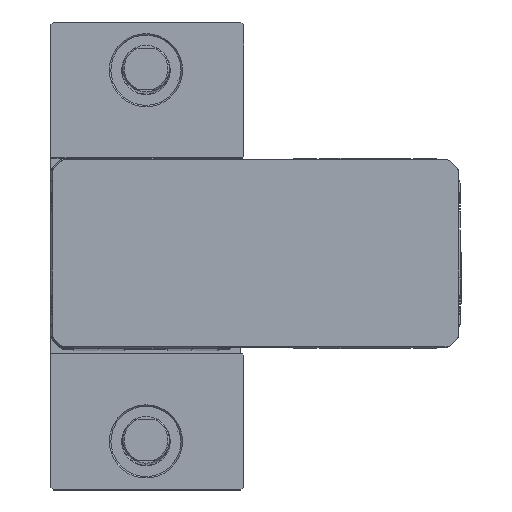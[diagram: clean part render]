
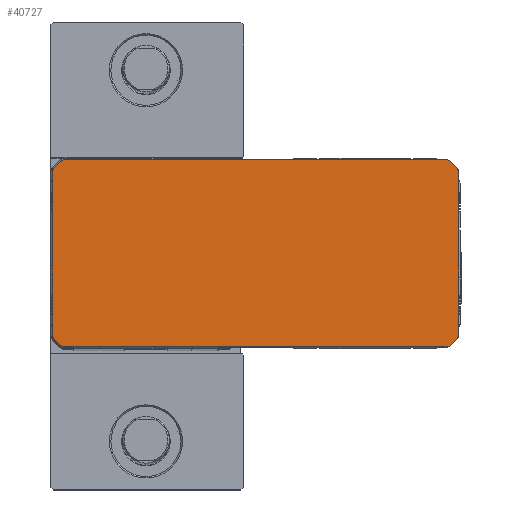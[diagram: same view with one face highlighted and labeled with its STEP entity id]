
A CAD part, top view. The second image highlights one B-rep face of the part: STEP entity #40727.
In plain terms, the highlighted planar face has unit normal (0, 0, 1).
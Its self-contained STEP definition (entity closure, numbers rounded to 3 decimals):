
#173 = DIRECTION ( 'NONE',  ( 0., 0., 1. ) ) ;
#1389 = VERTEX_POINT ( 'NONE', #41141 ) ;
#1442 = VERTEX_POINT ( 'NONE', #16970 ) ;
#1480 = AXIS2_PLACEMENT_3D ( 'NONE', #14711, #39157, #18220 ) ;
#1530 = CARTESIAN_POINT ( 'NONE',  ( -28., -30.5, 494. ) ) ;
#1694 = EDGE_CURVE ( 'NONE', #29848, #35018, #24774, .T. ) ;
#1878 = CARTESIAN_POINT ( 'NONE',  ( 106.561, 29.061, 494. ) ) ;
#2185 = DIRECTION ( 'NONE',  ( -0.707, 0.707, 0. ) ) ;
#3496 = DIRECTION ( 'NONE',  ( 0., 0., 1. ) ) ;
#3920 = CIRCLE ( 'NONE', #15931, 1.5 ) ;
#4418 = CARTESIAN_POINT ( 'NONE',  ( 103., 32., 494. ) ) ;
#4488 = LINE ( 'NONE', #10699, #40550 ) ;
#4684 = VERTEX_POINT ( 'NONE', #19243 ) ;
#4984 = CARTESIAN_POINT ( 'NONE',  ( 103., -32., 494. ) ) ;
#5087 = DIRECTION ( 'NONE',  ( 1., 0., 0. ) ) ;
#5245 = ORIENTED_EDGE ( 'NONE', *, *, #35434, .T. ) ;
#5634 = EDGE_CURVE ( 'NONE', #20023, #4684, #20060, .T. ) ;
#5825 = ORIENTED_EDGE ( 'NONE', *, *, #25659, .T. ) ;
#6308 = ORIENTED_EDGE ( 'NONE', *, *, #34750, .T. ) ;
#7182 = AXIS2_PLACEMENT_3D ( 'NONE', #1530, #25980, #5087 ) ;
#7264 = VERTEX_POINT ( 'NONE', #27009 ) ;
#7403 = VERTEX_POINT ( 'NONE', #39658 ) ;
#8210 = ORIENTED_EDGE ( 'NONE', *, *, #17579, .T. ) ;
#8279 = VECTOR ( 'NONE', #10390, 1000. ) ;
#8396 = CARTESIAN_POINT ( 'NONE',  ( -31.561, -29.061, 494. ) ) ;
#8438 = CARTESIAN_POINT ( 'NONE',  ( 103., -30.5, 494. ) ) ;
#8661 = VERTEX_POINT ( 'NONE', #33406 ) ;
#8936 = DIRECTION ( 'NONE',  ( -0.707, -0.707, 0. ) ) ;
#9127 = DIRECTION ( 'NONE',  ( 0., 1., 0. ) ) ;
#10007 = CARTESIAN_POINT ( 'NONE',  ( -30.5, -28., 494. ) ) ;
#10390 = DIRECTION ( 'NONE',  ( 0.707, 0.707, 0. ) ) ;
#10397 = EDGE_CURVE ( 'NONE', #7264, #15494, #17558, .T. ) ;
#10699 = CARTESIAN_POINT ( 'NONE',  ( -32., 28., 494. ) ) ;
#10789 = VECTOR ( 'NONE', #18686, 1000. ) ;
#11111 = PLANE ( 'NONE',  #37136 ) ;
#11929 = CARTESIAN_POINT ( 'NONE',  ( 105.5, -28., 494. ) ) ;
#11972 = DIRECTION ( 'NONE',  ( 1., 0., 0. ) ) ;
#13312 = VECTOR ( 'NONE', #8936, 1000. ) ;
#13554 = DIRECTION ( 'NONE',  ( 1., 0., 0. ) ) ;
#14099 = DIRECTION ( 'NONE',  ( 0., 0., 1. ) ) ;
#14129 = ORIENTED_EDGE ( 'NONE', *, *, #17745, .T. ) ;
#14167 = AXIS2_PLACEMENT_3D ( 'NONE', #8438, #32863, #11972 ) ;
#14711 = CARTESIAN_POINT ( 'NONE',  ( 103., 30.5, 494. ) ) ;
#15426 = DIRECTION ( 'NONE',  ( 1., 0., 0. ) ) ;
#15494 = VERTEX_POINT ( 'NONE', #22646 ) ;
#15931 = AXIS2_PLACEMENT_3D ( 'NONE', #24415, #3496, #27919 ) ;
#16688 = DIRECTION ( 'NONE',  ( 1., 0., 0. ) ) ;
#16970 = CARTESIAN_POINT ( 'NONE',  ( -32., 28., 494. ) ) ;
#17183 = CARTESIAN_POINT ( 'NONE',  ( 107., 28., 494. ) ) ;
#17342 = AXIS2_PLACEMENT_3D ( 'NONE', #21117, #173, #24643 ) ;
#17347 = VERTEX_POINT ( 'NONE', #26594 ) ;
#17558 = LINE ( 'NONE', #24268, #8279 ) ;
#17579 = EDGE_CURVE ( 'NONE', #1442, #19855, #4488, .T. ) ;
#17745 = EDGE_CURVE ( 'NONE', #15494, #1389, #42179, .T. ) ;
#18136 = CARTESIAN_POINT ( 'NONE',  ( -30.5, -28., 494. ) ) ;
#18220 = DIRECTION ( 'NONE',  ( 1., 0., 0. ) ) ;
#18686 = DIRECTION ( 'NONE',  ( -1., 0., 0. ) ) ;
#19046 = ORIENTED_EDGE ( 'NONE', *, *, #20348, .T. ) ;
#19243 = CARTESIAN_POINT ( 'NONE',  ( -28., 32., 494. ) ) ;
#19311 = CARTESIAN_POINT ( 'NONE',  ( -29.061, 31.561, 494. ) ) ;
#19824 = CARTESIAN_POINT ( 'NONE',  ( 104.061, 31.561, 494. ) ) ;
#19855 = VERTEX_POINT ( 'NONE', #31292 ) ;
#20023 = VERTEX_POINT ( 'NONE', #4418 ) ;
#20026 = CIRCLE ( 'NONE', #34653, 1.5 ) ;
#20060 = LINE ( 'NONE', #43135, #10789 ) ;
#20348 = EDGE_CURVE ( 'NONE', #19855, #29081, #20026, .T. ) ;
#20406 = ORIENTED_EDGE ( 'NONE', *, *, #29703, .T. ) ;
#21117 = CARTESIAN_POINT ( 'NONE',  ( -28., 30.5, 494. ) ) ;
#21239 = DIRECTION ( 'NONE',  ( 0., -1., 0. ) ) ;
#21490 = LINE ( 'NONE', #19311, #13312 ) ;
#21639 = DIRECTION ( 'NONE',  ( 1., 0., 0. ) ) ;
#22493 = LINE ( 'NONE', #1878, #29571 ) ;
#22567 = LINE ( 'NONE', #8396, #41168 ) ;
#22646 = CARTESIAN_POINT ( 'NONE',  ( 106.561, -29.061, 494. ) ) ;
#23007 = CARTESIAN_POINT ( 'NONE',  ( 107., -28., 494. ) ) ;
#23720 = CARTESIAN_POINT ( 'NONE',  ( -28., -32., 494. ) ) ;
#23808 = ORIENTED_EDGE ( 'NONE', *, *, #5634, .T. ) ;
#23946 = ORIENTED_EDGE ( 'NONE', *, *, #10397, .T. ) ;
#24268 = CARTESIAN_POINT ( 'NONE',  ( 104.061, -31.561, 494. ) ) ;
#24415 = CARTESIAN_POINT ( 'NONE',  ( -30.5, 28., 494. ) ) ;
#24643 = DIRECTION ( 'NONE',  ( 1., 0., 0. ) ) ;
#24774 = CIRCLE ( 'NONE', #7182, 1.5 ) ;
#24790 = EDGE_CURVE ( 'NONE', #1389, #31925, #26210, .T. ) ;
#25203 = LINE ( 'NONE', #23720, #33379 ) ;
#25659 = EDGE_CURVE ( 'NONE', #31925, #17347, #36528, .T. ) ;
#25980 = DIRECTION ( 'NONE',  ( 0., 0., 1. ) ) ;
#26104 = AXIS2_PLACEMENT_3D ( 'NONE', #11929, #36333, #15426 ) ;
#26210 = LINE ( 'NONE', #23007, #43713 ) ;
#26413 = ORIENTED_EDGE ( 'NONE', *, *, #36317, .T. ) ;
#26594 = CARTESIAN_POINT ( 'NONE',  ( 106.561, 29.061, 494. ) ) ;
#27009 = CARTESIAN_POINT ( 'NONE',  ( 104.061, -31.561, 494. ) ) ;
#27919 = DIRECTION ( 'NONE',  ( 1., 0., 0. ) ) ;
#28141 = ORIENTED_EDGE ( 'NONE', *, *, #30597, .T. ) ;
#29081 = VERTEX_POINT ( 'NONE', #43144 ) ;
#29571 = VECTOR ( 'NONE', #2185, 1000. ) ;
#29703 = EDGE_CURVE ( 'NONE', #29081, #29848, #22567, .T. ) ;
#29848 = VERTEX_POINT ( 'NONE', #43958 ) ;
#30042 = ORIENTED_EDGE ( 'NONE', *, *, #24790, .T. ) ;
#30597 = EDGE_CURVE ( 'NONE', #17347, #38700, #22493, .T. ) ;
#30678 = EDGE_CURVE ( 'NONE', #35018, #32246, #25203, .T. ) ;
#31292 = CARTESIAN_POINT ( 'NONE',  ( -32., -28., 494. ) ) ;
#31925 = VERTEX_POINT ( 'NONE', #17183 ) ;
#32246 = VERTEX_POINT ( 'NONE', #4984 ) ;
#32533 = CIRCLE ( 'NONE', #17342, 1.5 ) ;
#32823 = DIRECTION ( 'NONE',  ( 0.707, -0.707, 0. ) ) ;
#32863 = DIRECTION ( 'NONE',  ( 0., 0., 1. ) ) ;
#32991 = EDGE_CURVE ( 'NONE', #38700, #20023, #41448, .T. ) ;
#33379 = VECTOR ( 'NONE', #16688, 1000. ) ;
#33406 = CARTESIAN_POINT ( 'NONE',  ( -29.061, 31.561, 494. ) ) ;
#34428 = DIRECTION ( 'NONE',  ( 0., 0., 1. ) ) ;
#34567 = EDGE_CURVE ( 'NONE', #4684, #8661, #32533, .T. ) ;
#34653 = AXIS2_PLACEMENT_3D ( 'NONE', #10007, #34428, #13554 ) ;
#34750 = EDGE_CURVE ( 'NONE', #32246, #7264, #41797, .T. ) ;
#34999 = CARTESIAN_POINT ( 'NONE',  ( 105.5, 28., 494. ) ) ;
#35018 = VERTEX_POINT ( 'NONE', #44926 ) ;
#35434 = EDGE_CURVE ( 'NONE', #8661, #7403, #21490, .T. ) ;
#36317 = EDGE_CURVE ( 'NONE', #7403, #1442, #3920, .T. ) ;
#36333 = DIRECTION ( 'NONE',  ( 0., 0., 1. ) ) ;
#36528 = CIRCLE ( 'NONE', #37461, 1.5 ) ;
#37136 = AXIS2_PLACEMENT_3D ( 'NONE', #18136, #42582, #21639 ) ;
#37461 = AXIS2_PLACEMENT_3D ( 'NONE', #34999, #14099, #38518 ) ;
#38518 = DIRECTION ( 'NONE',  ( 1., 0., 0. ) ) ;
#38700 = VERTEX_POINT ( 'NONE', #19824 ) ;
#38859 = ORIENTED_EDGE ( 'NONE', *, *, #1694, .T. ) ;
#38862 = FACE_OUTER_BOUND ( 'NONE', #44173, .T. ) ;
#39157 = DIRECTION ( 'NONE',  ( 0., 0., 1. ) ) ;
#39658 = CARTESIAN_POINT ( 'NONE',  ( -31.561, 29.061, 494. ) ) ;
#40550 = VECTOR ( 'NONE', #21239, 1000. ) ;
#40727 = ADVANCED_FACE ( 'NONE', ( #38862 ), #11111, .T. ) ;
#41141 = CARTESIAN_POINT ( 'NONE',  ( 107., -28., 494. ) ) ;
#41168 = VECTOR ( 'NONE', #32823, 1000. ) ;
#41365 = ORIENTED_EDGE ( 'NONE', *, *, #30678, .T. ) ;
#41448 = CIRCLE ( 'NONE', #1480, 1.5 ) ;
#41797 = CIRCLE ( 'NONE', #14167, 1.5 ) ;
#42179 = CIRCLE ( 'NONE', #26104, 1.5 ) ;
#42560 = ORIENTED_EDGE ( 'NONE', *, *, #34567, .T. ) ;
#42582 = DIRECTION ( 'NONE',  ( 0., 0., 1. ) ) ;
#42590 = ORIENTED_EDGE ( 'NONE', *, *, #32991, .T. ) ;
#43135 = CARTESIAN_POINT ( 'NONE',  ( 103., 32., 494. ) ) ;
#43144 = CARTESIAN_POINT ( 'NONE',  ( -31.561, -29.061, 494. ) ) ;
#43713 = VECTOR ( 'NONE', #9127, 1000. ) ;
#43958 = CARTESIAN_POINT ( 'NONE',  ( -29.061, -31.561, 494. ) ) ;
#44173 = EDGE_LOOP ( 'NONE', ( #19046, #20406, #38859, #41365, #6308, #23946, #14129, #30042, #5825, #28141, #42590, #23808, #42560, #5245, #26413, #8210 ) ) ;
#44926 = CARTESIAN_POINT ( 'NONE',  ( -28., -32., 494. ) ) ;
